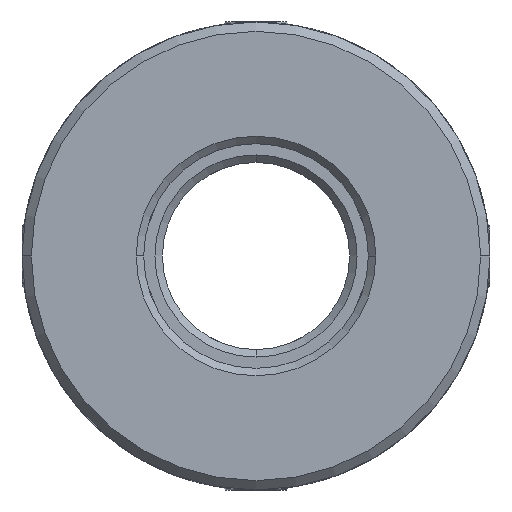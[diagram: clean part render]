
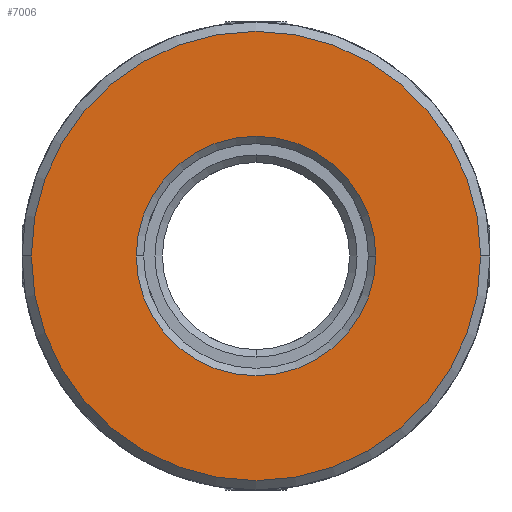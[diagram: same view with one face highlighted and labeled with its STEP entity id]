
A CAD part, front view. The second image highlights one B-rep face of the part: STEP entity #7006.
In plain terms, the highlighted planar face has unit normal (0, -1, 0).
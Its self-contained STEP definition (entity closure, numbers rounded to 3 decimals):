
#409 = CARTESIAN_POINT ( 'NONE',  ( 0., -28., 0. ) ) ;
#448 = AXIS2_PLACEMENT_3D ( 'NONE', #5574, #1120, #8124 ) ;
#538 = ORIENTED_EDGE ( 'NONE', *, *, #1672, .T. ) ;
#755 = EDGE_CURVE ( 'NONE', #7794, #5122, #8477, .T. ) ;
#1120 = DIRECTION ( 'NONE',  ( 0., 1., 0. ) ) ;
#1672 = EDGE_CURVE ( 'NONE', #3807, #5608, #2927, .T. ) ;
#2169 = FACE_BOUND ( 'NONE', #5485, .T. ) ;
#2785 = DIRECTION ( 'NONE',  ( 0., 1., 0. ) ) ;
#2927 = CIRCLE ( 'NONE', #3011, 12. ) ;
#3011 = AXIS2_PLACEMENT_3D ( 'NONE', #5359, #3052, #4561 ) ;
#3052 = DIRECTION ( 'NONE',  ( 0., -1., 0. ) ) ;
#3807 = VERTEX_POINT ( 'NONE', #8632 ) ;
#4266 = CARTESIAN_POINT ( 'NONE',  ( 6.4, -28., 0. ) ) ;
#4292 = EDGE_CURVE ( 'NONE', #5122, #7794, #6029, .T. ) ;
#4300 = FACE_OUTER_BOUND ( 'NONE', #9343, .T. ) ;
#4382 = DIRECTION ( 'NONE',  ( -1., 0., 0. ) ) ;
#4561 = DIRECTION ( 'NONE',  ( -1., 0., 0. ) ) ;
#4780 = CARTESIAN_POINT ( 'NONE',  ( -6.4, -28., 0. ) ) ;
#4806 = PLANE ( 'NONE',  #448 ) ;
#4916 = AXIS2_PLACEMENT_3D ( 'NONE', #9701, #2785, #4382 ) ;
#4942 = ORIENTED_EDGE ( 'NONE', *, *, #5721, .T. ) ;
#5122 = VERTEX_POINT ( 'NONE', #4266 ) ;
#5333 = AXIS2_PLACEMENT_3D ( 'NONE', #409, #5778, #6554 ) ;
#5359 = CARTESIAN_POINT ( 'NONE',  ( 0., -28., 0. ) ) ;
#5485 = EDGE_LOOP ( 'NONE', ( #7354, #6512 ) ) ;
#5574 = CARTESIAN_POINT ( 'NONE',  ( -19.597, -28., -50. ) ) ;
#5608 = VERTEX_POINT ( 'NONE', #7094 ) ;
#5721 = EDGE_CURVE ( 'NONE', #5608, #3807, #8433, .T. ) ;
#5778 = DIRECTION ( 'NONE',  ( 0., -1., 0. ) ) ;
#6029 = CIRCLE ( 'NONE', #4916, 6.4 ) ;
#6512 = ORIENTED_EDGE ( 'NONE', *, *, #755, .T. ) ;
#6554 = DIRECTION ( 'NONE',  ( -1., 0., 0. ) ) ;
#6652 = DIRECTION ( 'NONE',  ( -1., 0., 0. ) ) ;
#7006 = ADVANCED_FACE ( 'NONE', ( #4300, #2169 ), #4806, .F. ) ;
#7094 = CARTESIAN_POINT ( 'NONE',  ( -12., -28., 0. ) ) ;
#7295 = CARTESIAN_POINT ( 'NONE',  ( 0., -28., 0. ) ) ;
#7354 = ORIENTED_EDGE ( 'NONE', *, *, #4292, .T. ) ;
#7794 = VERTEX_POINT ( 'NONE', #4780 ) ;
#7824 = AXIS2_PLACEMENT_3D ( 'NONE', #7295, #9615, #6652 ) ;
#8124 = DIRECTION ( 'NONE',  ( -1., 0., 0. ) ) ;
#8433 = CIRCLE ( 'NONE', #5333, 12. ) ;
#8477 = CIRCLE ( 'NONE', #7824, 6.4 ) ;
#8632 = CARTESIAN_POINT ( 'NONE',  ( 12., -28., 0. ) ) ;
#9343 = EDGE_LOOP ( 'NONE', ( #4942, #538 ) ) ;
#9615 = DIRECTION ( 'NONE',  ( 0., 1., 0. ) ) ;
#9701 = CARTESIAN_POINT ( 'NONE',  ( 0., -28., 0. ) ) ;
